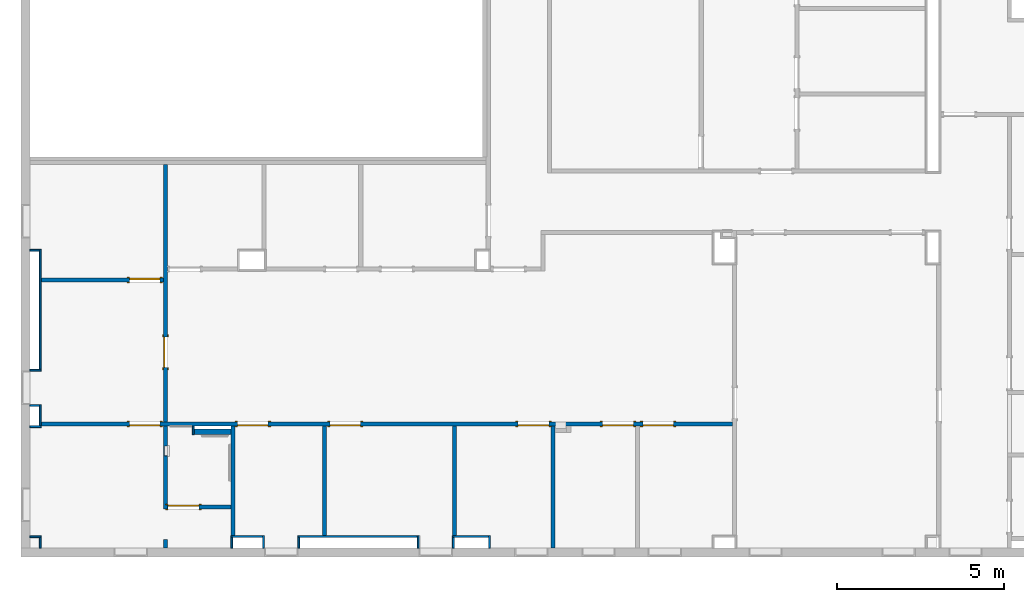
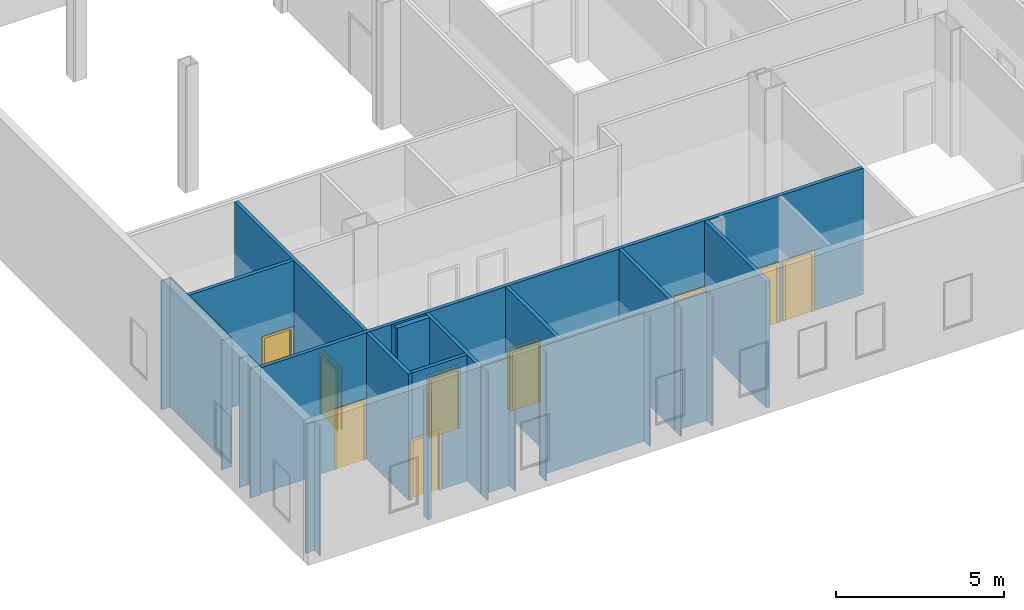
# One storey, part 6 of 45: 29 walls, 9 doors, 10 openings.
"""IFC2X3 building model written with IfcOpenShell, lengths in metres."""

from ifc_helpers import new_model, entity, si_unit, converted_unit, frame, frame_2d, origin, origin_2d_with_axis, place, context, project, spatial, polyline, rectangle, outline, extrude, source, transform, mapped, material, layer, layer_set, layer_usage, type_object, type_shapes, element, fill, save


model = new_model("IFC2X3")

# Units and contexts
model_context = context("Model", 3, precision=1e-09, world=origin())
plan_context = context("Plan", 3, precision=1e-09, world=origin())
ifc_project = project(units=[si_unit("LENGTHUNIT", "METRE"), si_unit("AREAUNIT", "SQUARE_METRE"), si_unit("VOLUMEUNIT", "CUBIC_METRE"), converted_unit("PLANEANGLEUNIT", "DEGREE", entity("IfcRatioMeasure", 0.01745329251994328), si_unit("PLANEANGLEUNIT", "RADIAN"), dimensions=[0, 0, 0, 0, 0, 0, 0]), si_unit("TIMEUNIT", "SECOND")], contexts=[model_context, plan_context])

# Site, building, storey
site_placement = place(None, origin())
site = spatial("IfcSite", under=ifc_project, at=site_placement, Name="Default", CompositionType="ELEMENT")
building_placement = place(site_placement, origin())
building = spatial("IfcBuilding", under=site, at=building_placement, CompositionType="ELEMENT")
storey_placement = place(building_placement, frame((0.0, 0.0, 4.570000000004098)))
storey = spatial("IfcBuildingStorey", under=building, at=storey_placement, Name="Second Floor", CompositionType="ELEMENT", Elevation=4.570000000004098)

# Wall, openings, doors
ifc_material_1 = material(Name="Plasterboard")
ifc_layer_1 = layer(ifc_material_1, 0.016)
ifc_material_2 = material(Name="Metal - Stud Layer")
ifc_layer_2 = layer(ifc_material_2, 0.092)
ifc_layer_3 = layer(ifc_material_1, 0.016)
ifc_layer_set_1 = layer_set([ifc_layer_1, ifc_layer_2, ifc_layer_3], Name="Basic Wall:Interior - Partition (92mm Stud)")
ifc_layer_usage_1 = layer_usage(ifc_layer_set_1, "AXIS2", "NEGATIVE", 0.062)
wall_1_placement = place(storey_placement, frame((-46.77000000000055, 13.64243871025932, 0.0)))
wall_1 = element("IfcWallStandardCase", 1, at=wall_1_placement, inside=storey, material=ifc_layer_usage_1, Name="Basic Wall:Interior - Partition (92mm Stud)", ObjectType="Basic Wall:Interior - Partition (92mm Stud)", context=model_context, shape_type="SweptSolid", body=[
    extrude(rectangle(XDim=20.70599999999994, YDim=0.1240000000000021, at=frame_2d((10.35299999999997, 0.0), x_axis=(-1.0, 0.0))), origin(), (0.0, 0.0, 1.0), 4.577999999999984),
])
opening_1_placement = place(wall_1_placement, frame((15.20100000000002, 0.06199999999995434, 0.0)))
opening_1 = element("IfcOpeningElement", 2, at=opening_1_placement, cuts=wall_1, Name="M_Single-Flush:0915 x 2134mm:0915 x 2134mm:1", ObjectType="Opening", context=model_context, shape_type="SweptSolid", body=[
    extrude(rectangle(XDim=0.9149999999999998, YDim=2.134, at=frame_2d((1.067, 0.4574999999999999), x_axis=(0.0, -1.0))), frame((0.0, 0.0, 0.0), z_axis=(0.0, -1.0, 0.0), x_axis=(0.0, 0.0, 1.0)), (0.0, 0.0, 1.0), 0.124),
])
opening_2_placement = place(wall_1_placement, frame((9.564999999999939, 0.06199999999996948, 0.0)))
opening_2 = element("IfcOpeningElement", 3, at=opening_2_placement, cuts=wall_1, Name="M_Single-Flush:0915 x 2134mm:0915 x 2134mm:1", ObjectType="Opening", context=model_context, shape_type="SweptSolid", body=[
    extrude(rectangle(XDim=0.9149999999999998, YDim=2.134, at=frame_2d((1.067, 0.4575), x_axis=(0.0, 1.0))), frame((0.0, 0.0, 0.0), z_axis=(0.0, -1.0, 0.0), x_axis=(0.0, 0.0, 1.0)), (0.0, 0.0, 1.0), 0.124),
])
opening_3_placement = place(wall_1_placement, frame((17.73100000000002, 0.06199999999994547, 0.0)))
opening_3 = element("IfcOpeningElement", 4, at=opening_3_placement, cuts=wall_1, Name="M_Single-Flush:0915 x 2134mm:0915 x 2134mm:1", ObjectType="Opening", context=model_context, shape_type="SweptSolid", body=[
    extrude(rectangle(XDim=0.9149999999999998, YDim=2.134, at=frame_2d((1.067, 0.4574999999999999), x_axis=(0.0, -1.0))), frame((0.0, 0.0, 0.0), z_axis=(0.0, -1.0, 0.0), x_axis=(0.0, 0.0, 1.0)), (0.0, 0.0, 1.0), 0.124),
])
opening_4_placement = place(wall_1_placement, frame((18.93000000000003, 0.06199999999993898, 0.0)))
opening_4 = element("IfcOpeningElement", 5, at=opening_4_placement, cuts=wall_1, Name="M_Single-Flush:0915 x 2134mm:0915 x 2134mm:1", ObjectType="Opening", context=model_context, shape_type="SweptSolid", body=[
    extrude(rectangle(XDim=0.9149999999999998, YDim=2.134, at=frame_2d((1.067, 0.4575), x_axis=(0.0, 1.0))), frame((0.0, 0.0, 0.0), z_axis=(0.0, -1.0, 0.0), x_axis=(0.0, 0.0, 1.0)), (0.0, 0.0, 1.0), 0.124),
])
opening_5_placement = place(wall_1_placement, frame((3.559999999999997, 0.06199999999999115, 0.0)))
opening_5 = element("IfcOpeningElement", 6, at=opening_5_placement, cuts=wall_1, Name="M_Single-Flush:0915 x 2134mm:0915 x 2134mm:1", ObjectType="Opening", context=model_context, shape_type="SweptSolid", body=[
    extrude(rectangle(XDim=0.9149999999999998, YDim=2.134, at=frame_2d((1.067, 0.4574999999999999), x_axis=(0.0, -1.0))), frame((0.0, 0.0, 0.0), z_axis=(0.0, -1.0, 0.0), x_axis=(0.0, 0.0, 1.0)), (0.0, 0.0, 1.0), 0.124),
])
opening_6_placement = place(wall_1_placement, frame((6.798999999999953, 0.06199999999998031, 0.0)))
opening_6 = element("IfcOpeningElement", 7, at=opening_6_placement, cuts=wall_1, Name="M_Single-Flush:0915 x 2134mm:0915 x 2134mm:1", ObjectType="Opening", context=model_context, shape_type="SweptSolid", body=[
    extrude(rectangle(XDim=0.9149999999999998, YDim=2.134, at=frame_2d((1.067, 0.4575), x_axis=(0.0, 1.0))), frame((0.0, 0.0, 0.0), z_axis=(0.0, -1.0, 0.0), x_axis=(0.0, 0.0, 1.0)), (0.0, 0.0, 1.0), 0.124),
])
door_style_1 = type_object("IfcDoorStyle", Name="0915 x 2134mm", ConstructionType="NOTDEFINED", OperationType="SINGLE_SWING_RIGHT", ParameterTakesPrecedence=False, Sizeable=False)
shared_shape_1 = source(origin(), model_context, "Body", "SweptSolid", [
    extrude(outline(polyline([(-0.5335, -1.123999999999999), (0.5334999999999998, -1.123999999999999), (0.5334999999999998, 1.086), (0.4574999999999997, 1.086), (0.4574999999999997, -1.048000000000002), (-0.4574999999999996, -1.048000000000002), (-0.4574999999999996, 1.086), (-0.5335, 1.086), (-0.5335, -1.123999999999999)])), frame((0.4575000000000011, 0.1239999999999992, 1.086), z_axis=(0.0, 1.0, 0.0), x_axis=(1.0, 0.0, 0.0)), (0.0, 0.0, 1.0), 0.02499999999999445),
    extrude(outline(polyline([(-1.123999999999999, -0.5334999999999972), (1.085999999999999, -0.5334999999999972), (1.085999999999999, -0.4575000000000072), (-1.048, -0.4575000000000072), (-1.048, 0.4575000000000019), (1.085999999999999, 0.4575000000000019), (1.085999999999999, 0.5335000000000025), (-1.123999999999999, 0.5335000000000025), (-1.123999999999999, -0.5334999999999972)])), frame((0.4575000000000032, -0.02500000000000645, 1.085999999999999), z_axis=(0.0, 1.0, 0.0), x_axis=(0.0, 0.0, -1.0)), (0.0, 0.0, 1.0), 0.02500000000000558),
    extrude(rectangle(XDim=0.051, YDim=0.9149999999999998, at=origin_2d_with_axis()), frame((0.4575000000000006, 0.09849999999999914, 0.0), z_axis=(0.0, 0.0, 1.0), x_axis=(0.0, 1.0, 0.0)), (0.0, 0.0, 1.0), 2.133999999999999),
])
type_shapes(door_style_1, [shared_shape_1])
door_1_placement = place(opening_2_placement, frame((0.0, 0.0, 0.0), z_axis=(0.0, 0.0, 1.0), x_axis=(-1.0, 0.0, 0.0)))
door_1 = element("IfcDoor", 8, at=door_1_placement, inside=storey, type_object=door_style_1, Name="M_Single-Flush:0915 x 2134mm:0915 x 2134mm", ObjectType="0915 x 2134mm", OverallHeight=2.134, OverallWidth=0.9149999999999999, context=model_context, shape_type="MappedRepresentation", body=[
    mapped(shared_shape_1, transform((0.0, 0.0, 0.0), scale=1.0)),
])
fill(opening_2, door_1)
door_2_placement = place(opening_6_placement, frame((0.0, 0.0, 0.0), z_axis=(0.0, 0.0, 1.0), x_axis=(-1.0, 0.0, 0.0)))
door_2 = element("IfcDoor", 9, at=door_2_placement, inside=storey, type_object=door_style_1, Name="M_Single-Flush:0915 x 2134mm:0915 x 2134mm", ObjectType="0915 x 2134mm", OverallHeight=2.134, OverallWidth=0.9149999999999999, context=model_context, shape_type="MappedRepresentation", body=[
    mapped(shared_shape_1, transform((0.0, 0.0, 0.0), scale=1.0)),
])
fill(opening_6, door_2)
door_3_placement = place(opening_4_placement, frame((0.0, 0.0, 0.0), z_axis=(0.0, 0.0, 1.0), x_axis=(-1.0, 0.0, 0.0)))
door_3 = element("IfcDoor", 10, at=door_3_placement, inside=storey, type_object=door_style_1, Name="M_Single-Flush:0915 x 2134mm:0915 x 2134mm", ObjectType="0915 x 2134mm", OverallHeight=2.134, OverallWidth=0.9149999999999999, context=model_context, shape_type="MappedRepresentation", body=[
    mapped(shared_shape_1, transform((0.0, 0.0, 0.0), scale=1.0)),
])
fill(opening_4, door_3)
door_style_2 = type_object("IfcDoorStyle", Name="0915 x 2134mm", ConstructionType="NOTDEFINED", OperationType="SINGLE_SWING_LEFT", ParameterTakesPrecedence=False, Sizeable=False)
shared_shape_2 = source(origin(), model_context, "Body", "SweptSolid", [
    extrude(outline(polyline([(-0.5335, -1.123999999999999), (0.5334999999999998, -1.123999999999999), (0.5334999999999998, 1.086), (0.4574999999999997, 1.086), (0.4574999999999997, -1.048000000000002), (-0.4574999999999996, -1.048000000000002), (-0.4574999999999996, 1.086), (-0.5335, 1.086), (-0.5335, -1.123999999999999)])), frame((0.4575000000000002, 0.1489999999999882, 1.086), z_axis=(0.0, -1.0, 0.0), x_axis=(-1.0, 0.0, 0.0)), (0.0, 0.0, 1.0), 0.02499999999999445),
    extrude(outline(polyline([(-1.123999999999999, -0.5334999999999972), (1.085999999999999, -0.5334999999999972), (1.085999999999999, -0.4575000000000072), (-1.048, -0.4575000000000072), (-1.048, 0.4575000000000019), (1.085999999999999, 0.4575000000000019), (1.085999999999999, 0.5335000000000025), (-1.123999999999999, 0.5335000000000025), (-1.123999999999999, -0.5334999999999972)])), frame((0.4574999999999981, 0.0, 1.085999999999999), z_axis=(0.0, -1.0, 0.0), x_axis=(0.0, 0.0, -1.0)), (0.0, 0.0, 1.0), 0.02500000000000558),
    extrude(rectangle(XDim=0.9149999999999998, YDim=0.051, at=origin_2d_with_axis()), frame((0.4575000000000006, 0.09849999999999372, 0.0)), (0.0, 0.0, 1.0), 2.133999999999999),
])
type_shapes(door_style_2, [shared_shape_2])
door_4_placement = place(opening_5_placement, frame((0.0, 0.0, 0.0), z_axis=(0.0, 0.0, 1.0), x_axis=(-1.0, 0.0, 0.0)))
door_4 = element("IfcDoor", 11, at=door_4_placement, inside=storey, type_object=door_style_2, Name="M_Single-Flush:0915 x 2134mm:0915 x 2134mm", ObjectType="0915 x 2134mm", OverallHeight=2.134, OverallWidth=0.9149999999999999, context=model_context, shape_type="MappedRepresentation", body=[
    mapped(shared_shape_2, transform((0.0, 0.0, 0.0), scale=1.0)),
])
fill(opening_5, door_4)
door_5_placement = place(opening_3_placement, frame((0.0, 0.0, 0.0), z_axis=(0.0, 0.0, 1.0), x_axis=(-1.0, 0.0, 0.0)))
door_5 = element("IfcDoor", 12, at=door_5_placement, inside=storey, type_object=door_style_2, Name="M_Single-Flush:0915 x 2134mm:0915 x 2134mm", ObjectType="0915 x 2134mm", OverallHeight=2.134, OverallWidth=0.9149999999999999, context=model_context, shape_type="MappedRepresentation", body=[
    mapped(shared_shape_2, transform((0.0, 0.0, 0.0), scale=1.0)),
])
fill(opening_3, door_5)
door_6_placement = place(opening_1_placement, frame((0.0, 0.0, 0.0), z_axis=(0.0, 0.0, 1.0), x_axis=(-1.0, 0.0, 0.0)))
door_6 = element("IfcDoor", 13, at=door_6_placement, inside=storey, type_object=door_style_2, Name="M_Single-Flush:0915 x 2134mm:0915 x 2134mm", ObjectType="0915 x 2134mm", OverallHeight=2.134, OverallWidth=0.9149999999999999, context=model_context, shape_type="MappedRepresentation", body=[
    mapped(shared_shape_2, transform((0.0, 0.0, 0.0), scale=1.0)),
])
fill(opening_1, door_6)

# Wall
wall_2_placement = place(storey_placement, frame((-41.0280000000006, 10.30433433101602, 0.0), z_axis=(0.0, 0.0, 1.0), x_axis=(0.0, 1.0, 0.0)))
element("IfcWallStandardCase", 14, at=wall_2_placement, inside=storey, material=ifc_layer_usage_1, Name="Basic Wall:Interior - Partition (92mm Stud)", ObjectType="Basic Wall:Interior - Partition (92mm Stud)", context=model_context, shape_type="SweptSolid", body=[
    extrude(rectangle(XDim=3.276104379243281, YDim=0.1240000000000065, at=frame_2d((1.638052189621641, 0.0), x_axis=(-1.0, 0.0))), origin(), (0.0, 0.0, 1.0), 4.577999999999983),
])

# Wall, opening, door
wall_3_placement = place(storey_placement, frame((-43.04800000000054, 13.7044387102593, 0.0), z_axis=(0.0, 0.0, 1.0), x_axis=(0.0, 1.0, 0.0)))
wall_3 = element("IfcWallStandardCase", 15, at=wall_3_placement, inside=storey, material=ifc_layer_usage_1, Name="Basic Wall:Interior - Partition (92mm Stud)", ObjectType="Basic Wall:Interior - Partition (92mm Stud)", context=model_context, shape_type="SweptSolid", body=[
    extrude(rectangle(XDim=7.710000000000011, YDim=0.1240000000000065, at=frame_2d((3.855000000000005, 0.0), x_axis=(-1.0, 0.0))), origin(), (0.0, 0.0, 1.0), 4.577999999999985),
])
opening_7_placement = place(wall_3_placement, frame((1.635499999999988, -0.06200000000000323, 0.0)))
opening_7 = element("IfcOpeningElement", 16, at=opening_7_placement, cuts=wall_3, Name="M_Single-Flush:0915 x 2134mm:0915 x 2134mm:1", ObjectType="Opening", context=model_context, shape_type="SweptSolid", body=[
    extrude(rectangle(XDim=0.9149999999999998, YDim=2.134, at=frame_2d((1.067, 0.4575), x_axis=(0.0, 1.0))), frame((0.0, 0.0, 0.0), z_axis=(0.0, 1.0, 0.0), x_axis=(0.0, 0.0, 1.0)), (0.0, 0.0, 1.0), 0.124),
])
door_7_placement = place(opening_7_placement, origin())
door_7 = element("IfcDoor", 17, at=door_7_placement, inside=storey, type_object=door_style_1, Name="M_Single-Flush:0915 x 2134mm:0915 x 2134mm", ObjectType="0915 x 2134mm", OverallHeight=2.134, OverallWidth=0.9149999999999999, context=model_context, shape_type="MappedRepresentation", body=[
    mapped(shared_shape_1, transform((0.0, 0.0, 0.0), scale=1.0)),
])
fill(opening_7, door_7)

# Walls
wall_4_placement = place(storey_placement, frame((-34.39204823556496, 13.58043871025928, 0.0), z_axis=(0.0, 0.0, 1.0), x_axis=(0.0, -1.0, 0.0)))
element("IfcWallStandardCase", 18, at=wall_4_placement, inside=storey, material=ifc_layer_usage_1, Name="Basic Wall:Interior - Partition (92mm Stud)", ObjectType="Basic Wall:Interior - Partition (92mm Stud)", context=model_context, shape_type="SweptSolid", body=[
    extrude(rectangle(XDim=3.276104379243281, YDim=0.1239999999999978, at=frame_2d((1.638052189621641, 0.0), x_axis=(-1.0, 0.0))), origin(), (0.0, 0.0, 1.0), 4.577999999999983),
])
wall_5_placement = place(storey_placement, frame((-31.44700000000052, 13.58043871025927, 0.0), z_axis=(0.0, 0.0, 1.0), x_axis=(0.0, -1.0, 0.0)))
element("IfcWallStandardCase", 19, at=wall_5_placement, inside=storey, material=ifc_layer_usage_1, Name="Basic Wall:Interior - Partition (92mm Stud)", ObjectType="Basic Wall:Interior - Partition (92mm Stud)", context=model_context, shape_type="SweptSolid", body=[
    extrude(rectangle(XDim=3.653438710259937, YDim=0.1239999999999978, at=frame_2d((1.826719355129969, 0.0), x_axis=(-1.0, 0.0))), origin(), (0.0, 0.0, 1.0), 4.577999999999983),
])

# Wall, opening
wall_6_placement = place(storey_placement, frame((-43.04800000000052, 11.09443871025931, 0.0), z_axis=(0.0, 0.0, 1.0), x_axis=(0.0, 1.0, 0.0)))
wall_6 = element("IfcWallStandardCase", 20, at=wall_6_placement, inside=storey, material=ifc_layer_usage_1, Name="Basic Wall:Interior - Partition (92mm Stud)", ObjectType="Basic Wall:Interior - Partition (92mm Stud)", context=model_context, shape_type="SweptSolid", body=[
    extrude(rectangle(XDim=2.485999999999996, YDim=0.1240000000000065, at=frame_2d((1.242999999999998, 0.0), x_axis=(-1.0, 0.0))), origin(), (0.0, 0.0, 1.0), 4.577999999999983),
])
opening_8_placement = place(wall_6_placement, origin())
element("IfcOpeningElement", 21, at=opening_8_placement, cuts=wall_6, ObjectType="Opening", context=model_context, shape_type="SweptSolid", body=[
    extrude(rectangle(XDim=1.362075, YDim=0.2984499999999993, at=origin_2d_with_axis()), frame((1.744900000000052, -0.1255000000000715, 1.041399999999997), z_axis=(0.0, 1.0, 0.0), x_axis=(0.0, 0.0, -1.0)), (0.0, 0.0, 1.0), 0.15240000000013),
])

# Wall, opening, door
wall_7_placement = place(storey_placement, frame((-41.09000000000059, 11.1564387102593, 0.0), z_axis=(0.0, 0.0, 1.0), x_axis=(-1.0, 0.0, 0.0)))
wall_7 = element("IfcWallStandardCase", 22, at=wall_7_placement, inside=storey, material=ifc_layer_usage_1, Name="Basic Wall:Interior - Partition (92mm Stud)", ObjectType="Basic Wall:Interior - Partition (92mm Stud)", context=model_context, shape_type="SweptSolid", body=[
    extrude(rectangle(XDim=1.895999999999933, YDim=0.1240000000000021, at=frame_2d((0.9479999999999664, 0.0), x_axis=(-1.0, 0.0))), origin(), (0.0, 0.0, 1.0), 4.577999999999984),
])
opening_9_placement = place(wall_7_placement, frame((1.875999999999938, 0.06199999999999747, 0.0)))
opening_9 = element("IfcOpeningElement", 23, at=opening_9_placement, cuts=wall_7, Name="M_Single-Flush:0915 x 2134mm:0915 x 2134mm:1", ObjectType="Opening", context=model_context, shape_type="SweptSolid", body=[
    extrude(rectangle(XDim=0.9149999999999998, YDim=2.134, at=frame_2d((1.067, 0.4575000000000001), x_axis=(0.0, -1.0))), frame((0.0, 0.0, 0.0), z_axis=(0.0, -1.0, 0.0), x_axis=(0.0, 0.0, 1.0)), (0.0, 0.0, 1.0), 0.124),
])
door_8_placement = place(opening_9_placement, frame((0.0, 0.0, 0.0), z_axis=(0.0, 0.0, 1.0), x_axis=(-1.0, 0.0, 0.0)))
door_8 = element("IfcDoor", 24, at=door_8_placement, inside=storey, type_object=door_style_2, Name="M_Single-Flush:0915 x 2134mm:0915 x 2134mm", ObjectType="0915 x 2134mm", OverallHeight=2.134, OverallWidth=0.9149999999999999, context=model_context, shape_type="MappedRepresentation", body=[
    mapped(shared_shape_2, transform((0.0, 0.0, 0.0), scale=1.0)),
])
fill(opening_9, door_8)

# Walls
ifc_layer_4 = layer(ifc_material_2, 0.038)
ifc_layer_5 = layer(ifc_material_1, 0.016)
ifc_layer_set_2 = layer_set([ifc_layer_4, ifc_layer_5], Name="Basic Wall:Interior - Furring (38 mm Stud)")
ifc_layer_usage_2 = layer_usage(ifc_layer_set_2, "AXIS2", "NEGATIVE", 0.027)
wall_8_placement = place(storey_placement, frame((-33.3740000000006, 10.27733433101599, 0.0), z_axis=(0.0, 0.0, 1.0), x_axis=(-1.0, 0.0, 0.0)))
element("IfcWallStandardCase", 25, at=wall_8_placement, inside=storey, material=ifc_layer_usage_2, Name="Basic Wall:Interior - Furring (38 mm Stud)", ObjectType="Basic Wall:Interior - Furring (38 mm Stud)", context=model_context, shape_type="SweptSolid", body=[
    extrude(rectangle(XDim=1.080048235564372, YDim=0.05400000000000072, at=frame_2d((0.540024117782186, 0.0), x_axis=(-1.0, 0.0))), origin(), (0.0, 0.0, 1.0), 4.679999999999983),
])
wall_9_placement = place(storey_placement, frame((-46.79700000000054, 15.28135389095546, 0.0), z_axis=(0.0, 0.0, 1.0), x_axis=(0.0, 1.0, 0.0)))
element("IfcWallStandardCase", 26, at=wall_9_placement, inside=storey, material=ifc_layer_usage_2, Name="Basic Wall:Interior - Furring (38 mm Stud)", ObjectType="Basic Wall:Interior - Furring (38 mm Stud)", context=model_context, shape_type="SweptSolid", body=[
    extrude(rectangle(XDim=3.593084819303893, YDim=0.05400000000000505, at=frame_2d((1.796542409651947, 0.0), x_axis=(-1.0, 0.0))), origin(), (0.0, 0.0, 1.0), 4.679999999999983),
])
wall_10_placement = place(storey_placement, frame((-34.42704823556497, 10.25033433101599, 0.0), z_axis=(0.0, 0.0, 1.0), x_axis=(0.0, -1.0, 0.0)))
element("IfcWallStandardCase", 27, at=wall_10_placement, inside=storey, material=ifc_layer_usage_2, Name="Basic Wall:Interior - Furring (38 mm Stud)", ObjectType="Basic Wall:Interior - Furring (38 mm Stud)", context=model_context, shape_type="SweptSolid", body=[
    extrude(rectangle(XDim=0.3233343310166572, YDim=0.05399999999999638, at=frame_2d((0.1616671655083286, 0.0), x_axis=(-1.0, 0.0))), origin(), (0.0, 0.0, 1.0), 4.679999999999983),
])
wall_11_placement = place(storey_placement, frame((-40.13730308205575, 10.27733433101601, 0.0), z_axis=(0.0, 0.0, 1.0), x_axis=(-1.0, 0.0, 0.0)))
element("IfcWallStandardCase", 28, at=wall_11_placement, inside=storey, material=ifc_layer_usage_2, Name="Basic Wall:Interior - Furring (38 mm Stud)", ObjectType="Basic Wall:Interior - Furring (38 mm Stud)", context=model_context, shape_type="SweptSolid", body=[
    extrude(rectangle(XDim=0.9526969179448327, YDim=0.05400000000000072, at=frame_2d((0.4763484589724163, 0.0), x_axis=(-1.0, 0.0))), origin(), (0.0, 0.0, 1.0), 4.679999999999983),
])
wall_12_placement = place(storey_placement, frame((-35.50804823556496, 10.277334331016, 0.0), z_axis=(0.0, 0.0, 1.0), x_axis=(-1.0, 0.0, 0.0)))
element("IfcWallStandardCase", 29, at=wall_12_placement, inside=storey, material=ifc_layer_usage_2, Name="Basic Wall:Interior - Furring (38 mm Stud)", ObjectType="Basic Wall:Interior - Furring (38 mm Stud)", context=model_context, shape_type="SweptSolid", body=[
    extrude(rectangle(XDim=3.575254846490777, YDim=0.05400000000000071, at=frame_2d((1.787627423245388, 0.0), x_axis=(-1.0, 0.0))), origin(), (0.0, 0.0, 1.0), 4.679999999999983),
])

# Wall, opening, door
wall_13_placement = place(storey_placement, frame((-46.77000000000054, 17.95243871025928, 0.0)))
wall_13 = element("IfcWallStandardCase", 30, at=wall_13_placement, inside=storey, material=ifc_layer_usage_1, Name="Basic Wall:Interior - Partition (92mm Stud)", ObjectType="Basic Wall:Interior - Partition (92mm Stud)", context=model_context, shape_type="SweptSolid", body=[
    extrude(rectangle(XDim=3.660000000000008, YDim=0.1240000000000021, at=frame_2d((1.830000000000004, 0.0), x_axis=(-1.0, 0.0))), origin(), (0.0, 0.0, 1.0), 4.577999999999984),
])
opening_10_placement = place(wall_13_placement, frame((2.645000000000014, -0.06200000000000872, 0.0)))
opening_10 = element("IfcOpeningElement", 31, at=opening_10_placement, cuts=wall_13, Name="M_Single-Flush:0915 x 2134mm:0915 x 2134mm:1", ObjectType="Opening", context=model_context, shape_type="SweptSolid", body=[
    extrude(rectangle(XDim=0.9149999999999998, YDim=2.134, at=frame_2d((1.067, 0.4575), x_axis=(0.0, 1.0))), frame((0.0, 0.0, 0.0), z_axis=(0.0, 1.0, 0.0), x_axis=(0.0, 0.0, 1.0)), (0.0, 0.0, 1.0), 0.124),
])
door_9_placement = place(opening_10_placement, origin())
door_9 = element("IfcDoor", 32, at=door_9_placement, inside=storey, type_object=door_style_1, Name="M_Single-Flush:0915 x 2134mm:0915 x 2134mm", ObjectType="0915 x 2134mm", OverallHeight=2.134, OverallWidth=0.9149999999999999, context=model_context, shape_type="MappedRepresentation", body=[
    mapped(shared_shape_1, transform((0.0, 0.0, 0.0), scale=1.0)),
])
fill(opening_10, door_9)

# Walls
wall_14_placement = place(storey_placement, frame((-46.79700000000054, 13.5924387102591, 0.0), z_axis=(0.0, 0.0, 1.0), x_axis=(0.0, 1.0, 0.0)))
element("IfcWallStandardCase", 33, at=wall_14_placement, inside=storey, material=ifc_layer_usage_2, Name="Basic Wall:Interior - Furring (38 mm Stud)", ObjectType="Basic Wall:Interior - Furring (38 mm Stud)", context=model_context, shape_type="SweptSolid", body=[
    extrude(rectangle(XDim=0.6349151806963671, YDim=0.05400000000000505, at=frame_2d((0.3174575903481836, 0.0), x_axis=(-1.0, 0.0))), origin(), (0.0, 0.0, 1.0), 4.679999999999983),
])
wall_15_placement = place(storey_placement, frame((-41.06300000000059, 10.25033433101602, 0.0), z_axis=(0.0, 0.0, 1.0), x_axis=(0.0, -1.0, 0.0)))
element("IfcWallStandardCase", 34, at=wall_15_placement, inside=storey, material=ifc_layer_usage_2, Name="Basic Wall:Interior - Furring (38 mm Stud)", ObjectType="Basic Wall:Interior - Furring (38 mm Stud)", context=model_context, shape_type="SweptSolid", body=[
    extrude(rectangle(XDim=0.3233343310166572, YDim=0.05400000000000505, at=frame_2d((0.1616671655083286, 0.0), x_axis=(-1.0, 0.0))), origin(), (0.0, 0.0, 1.0), 4.679999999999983),
])
wall_16_placement = place(storey_placement, frame((-38.28200000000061, 13.58043871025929, 0.0), z_axis=(0.0, 0.0, 1.0), x_axis=(0.0, -1.0, 0.0)))
element("IfcWallStandardCase", 35, at=wall_16_placement, inside=storey, material=ifc_layer_usage_1, Name="Basic Wall:Interior - Partition (92mm Stud)", ObjectType="Basic Wall:Interior - Partition (92mm Stud)", context=model_context, shape_type="SweptSolid", body=[
    extrude(rectangle(XDim=3.276104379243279, YDim=0.1239999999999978, at=frame_2d((1.63805218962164, 0.0), x_axis=(-1.0, 0.0))), origin(), (0.0, 0.0, 1.0), 4.577999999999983),
])
wall_17_placement = place(storey_placement, frame((-43.04800000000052, 9.926999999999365, 0.0), z_axis=(0.0, 0.0, 1.0), x_axis=(0.0, 1.0, 0.0)))
element("IfcWallStandardCase", 36, at=wall_17_placement, inside=storey, material=ifc_layer_usage_1, Name="Basic Wall:Interior - Partition (92mm Stud)", ObjectType="Basic Wall:Interior - Partition (92mm Stud)", context=model_context, shape_type="SweptSolid", body=[
    extrude(rectangle(XDim=0.2524387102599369, YDim=0.1240000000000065, at=frame_2d((0.1262193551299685, 0.0), x_axis=(-1.0, 0.0))), origin(), (0.0, 0.0, 1.0), 4.577999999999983),
])
wall_18_placement = place(storey_placement, frame((-47.11300000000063, 15.25435389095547, 0.0)))
element("IfcWallStandardCase", 37, at=wall_18_placement, inside=storey, material=ifc_layer_usage_2, Name="Basic Wall:Interior - Furring (38 mm Stud)", ObjectType="Basic Wall:Interior - Furring (38 mm Stud)", context=model_context, shape_type="SweptSolid", body=[
    extrude(rectangle(XDim=0.3430000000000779, YDim=0.05400000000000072, at=frame_2d((0.171500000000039, 0.0), x_axis=(-1.0, 0.0))), origin(), (0.0, 0.0, 1.0), 4.679999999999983),
])
ifc_layer_usage_3 = layer_usage(ifc_layer_set_2, "AXIS2", "POSITIVE", -0.027)
wall_19_placement = place(storey_placement, frame((-42.21630308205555, 13.32443871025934, 0.0), z_axis=(0.0, 0.0, 1.0), x_axis=(0.0, 1.0, 0.0)))
element("IfcWallStandardCase", 38, at=wall_19_placement, inside=storey, material=ifc_layer_usage_3, Name="Basic Wall:Interior - Furring (38 mm Stud)", ObjectType="Basic Wall:Interior - Furring (38 mm Stud)", context=model_context, shape_type="SweptSolid", body=[
    extrude(rectangle(XDim=0.2559999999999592, YDim=0.05400000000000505, at=frame_2d((0.1279999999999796, 0.0), x_axis=(-1.0, 0.0))), origin(), (0.0, 0.0, 1.0), 4.577999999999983),
])
wall_20_placement = place(storey_placement, frame((-35.48104823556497, 9.926999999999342, 0.0), z_axis=(0.0, 0.0, 1.0), x_axis=(0.0, 1.0, 0.0)))
element("IfcWallStandardCase", 39, at=wall_20_placement, inside=storey, material=ifc_layer_usage_2, Name="Basic Wall:Interior - Furring (38 mm Stud)", ObjectType="Basic Wall:Interior - Furring (38 mm Stud)", context=model_context, shape_type="SweptSolid", body=[
    extrude(rectangle(XDim=0.377334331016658, YDim=0.05399999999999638, at=frame_2d((0.188667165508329, 0.0), x_axis=(-1.0, 0.0))), origin(), (0.0, 0.0, 1.0), 4.679999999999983),
])
ifc_layer_6 = layer(ifc_material_2, 0.152)
ifc_layer_7 = layer(ifc_material_1, 0.016)
ifc_layer_set_3 = layer_set([ifc_layer_6, ifc_layer_7], Name="Basic Wall:Interior - Furring (152 mm Stud)")
ifc_layer_usage_4 = layer_usage(ifc_layer_set_3, "AXIS2", "POSITIVE", -0.08399999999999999)
wall_21_placement = place(storey_placement, frame((-41.09000000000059, 13.40843871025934, 0.0), z_axis=(0.0, 0.0, 1.0), x_axis=(-1.0, 0.0, 0.0)))
element("IfcWallStandardCase", 40, at=wall_21_placement, inside=storey, material=ifc_layer_usage_4, Name="Basic Wall:Interior - Furring (152 mm Stud)", ObjectType="Basic Wall:Interior - Furring (152 mm Stud)", context=model_context, shape_type="SweptSolid", body=[
    extrude(rectangle(XDim=1.099303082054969, YDim=0.1680000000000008, at=frame_2d((0.5496515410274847, 0.0), x_axis=(-1.0, 0.0))), origin(), (0.0, 0.0, 1.0), 4.577999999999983),
])
wall_22_placement = place(storey_placement, frame((-46.82400000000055, 14.20035389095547, 0.0), z_axis=(0.0, 0.0, 1.0), x_axis=(-1.0, 0.0, 0.0)))
element("IfcWallStandardCase", 41, at=wall_22_placement, inside=storey, material=ifc_layer_usage_2, Name="Basic Wall:Interior - Furring (38 mm Stud)", ObjectType="Basic Wall:Interior - Furring (38 mm Stud)", context=model_context, shape_type="SweptSolid", body=[
    extrude(rectangle(XDim=0.2890000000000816, YDim=0.05400000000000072, at=frame_2d((0.1445000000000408, 0.0), x_axis=(-1.0, 0.0))), origin(), (0.0, 0.0, 1.0), 4.679999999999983),
])
wall_23_placement = place(storey_placement, frame((-46.82400000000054, 18.84743871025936, 0.0), z_axis=(0.0, 0.0, 1.0), x_axis=(-1.0, 0.0, 0.0)))
element("IfcWallStandardCase", 42, at=wall_23_placement, inside=storey, material=ifc_layer_usage_2, Name="Basic Wall:Interior - Furring (38 mm Stud)", ObjectType="Basic Wall:Interior - Furring (38 mm Stud)", context=model_context, shape_type="SweptSolid", body=[
    extrude(rectangle(XDim=0.2890000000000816, YDim=0.05400000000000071, at=frame_2d((0.1445000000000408, 0.0), x_axis=(-1.0, 0.0))), origin(), (0.0, 0.0, 1.0), 4.679999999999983),
])
wall_24_placement = place(storey_placement, frame((-46.79700000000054, 10.24043871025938, 0.0), z_axis=(0.0, 0.0, 1.0), x_axis=(0.0, -1.0, 0.0)))
element("IfcWallStandardCase", 43, at=wall_24_placement, inside=storey, material=ifc_layer_usage_3, Name="Basic Wall:Interior - Furring (38 mm Stud)", ObjectType="Basic Wall:Interior - Furring (38 mm Stud)", context=model_context, shape_type="SweptSolid", body=[
    extrude(rectangle(XDim=0.3134387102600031, YDim=0.05400000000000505, at=frame_2d((0.1567193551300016, 0.0), x_axis=(-1.0, 0.0))), origin(), (0.0, 0.0, 1.0), 4.679999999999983),
])
wall_25_placement = place(storey_placement, frame((-47.11300000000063, 13.5654387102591, 0.0)))
element("IfcWallStandardCase", 44, at=wall_25_placement, inside=storey, material=ifc_layer_usage_2, Name="Basic Wall:Interior - Furring (38 mm Stud)", ObjectType="Basic Wall:Interior - Furring (38 mm Stud)", context=model_context, shape_type="SweptSolid", body=[
    extrude(rectangle(XDim=0.343000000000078, YDim=0.05400000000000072, at=frame_2d((0.171500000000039, 0.0), x_axis=(-1.0, 0.0))), origin(), (0.0, 0.0, 1.0), 4.679999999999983),
])
wall_26_placement = place(storey_placement, frame((-33.3470000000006, 9.926999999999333, 0.0), z_axis=(0.0, 0.0, 1.0), x_axis=(0.0, 1.0, 0.0)))
element("IfcWallStandardCase", 45, at=wall_26_placement, inside=storey, material=ifc_layer_usage_2, Name="Basic Wall:Interior - Furring (38 mm Stud)", ObjectType="Basic Wall:Interior - Furring (38 mm Stud)", context=model_context, shape_type="SweptSolid", body=[
    extrude(rectangle(XDim=0.377334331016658, YDim=0.05399999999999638, at=frame_2d((0.188667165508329, 0.0), x_axis=(-1.0, 0.0))), origin(), (0.0, 0.0, 1.0), 4.679999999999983),
])
wall_27_placement = place(storey_placement, frame((-40.11030308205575, 9.926999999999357, 0.0), z_axis=(0.0, 0.0, 1.0), x_axis=(0.0, 1.0, 0.0)))
element("IfcWallStandardCase", 46, at=wall_27_placement, inside=storey, material=ifc_layer_usage_2, Name="Basic Wall:Interior - Furring (38 mm Stud)", ObjectType="Basic Wall:Interior - Furring (38 mm Stud)", context=model_context, shape_type="SweptSolid", body=[
    extrude(rectangle(XDim=0.3773343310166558, YDim=0.05400000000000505, at=frame_2d((0.1886671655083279, 0.0), x_axis=(-1.0, 0.0))), origin(), (0.0, 0.0, 1.0), 4.679999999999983),
])
wall_28_placement = place(storey_placement, frame((-39.05630308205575, 10.25033433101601, 0.0), z_axis=(0.0, 0.0, 1.0), x_axis=(0.0, -1.0, 0.0)))
element("IfcWallStandardCase", 47, at=wall_28_placement, inside=storey, material=ifc_layer_usage_2, Name="Basic Wall:Interior - Furring (38 mm Stud)", ObjectType="Basic Wall:Interior - Furring (38 mm Stud)", context=model_context, shape_type="SweptSolid", body=[
    extrude(rectangle(XDim=0.3233343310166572, YDim=0.05400000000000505, at=frame_2d((0.1616671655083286, 0.0), x_axis=(-1.0, 0.0))), origin(), (0.0, 0.0, 1.0), 4.679999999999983),
])
wall_29_placement = place(storey_placement, frame((-47.11300000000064, 10.26743871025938, 0.0)))
element("IfcWallStandardCase", 48, at=wall_29_placement, inside=storey, material=ifc_layer_usage_3, Name="Basic Wall:Interior - Furring (38 mm Stud)", ObjectType="Basic Wall:Interior - Furring (38 mm Stud)", context=model_context, shape_type="SweptSolid", body=[
    extrude(rectangle(XDim=0.3430000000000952, YDim=0.05400000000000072, at=frame_2d((0.1715000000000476, 0.0), x_axis=(-1.0, 0.0))), origin(), (0.0, 0.0, 1.0), 4.679999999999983),
])

save(model, "model.ifc")
